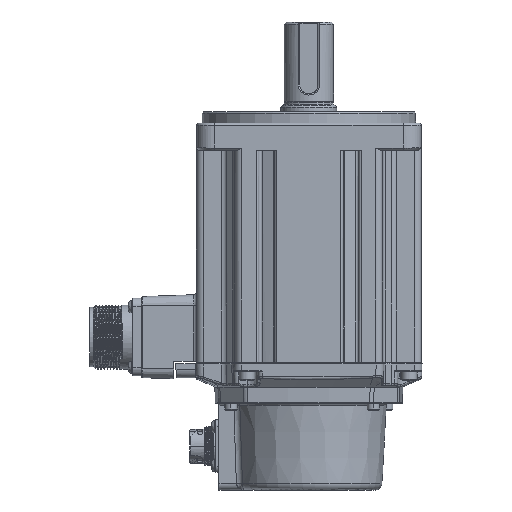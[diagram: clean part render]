
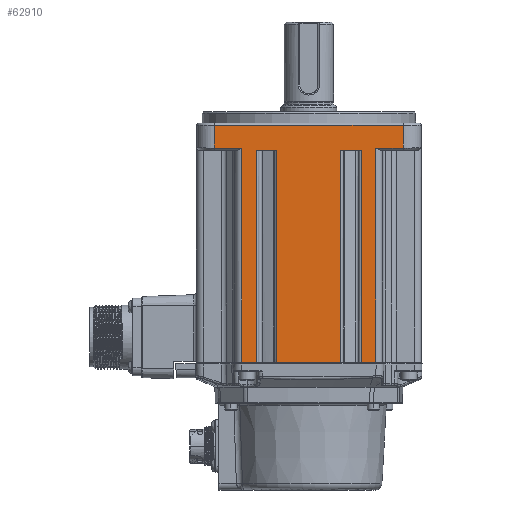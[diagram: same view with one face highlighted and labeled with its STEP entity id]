
A CAD part, left-side view. The second image highlights one B-rep face of the part: STEP entity #62910.
In plain terms, the highlighted planar face has unit normal (-1, 0, 0).
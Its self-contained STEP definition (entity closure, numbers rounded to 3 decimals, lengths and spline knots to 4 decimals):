
#11462=DIRECTION('',(0.,1.,0.));
#11463=VECTOR('',#11462,3.3071);
#11464=CARTESIAN_POINT('',(0.0464,0.3614,
-1.8151));
#11465=LINE('',#11464,#11463);
#12788=DIRECTION('',(0.,0.,1.));
#12789=VECTOR('',#12788,3.7165);
#12790=CARTESIAN_POINT('',(0.0464,2.9323,
-5.9647));
#12791=LINE('',#12790,#12789);
#12811=DIRECTION('',(0.,-1.,0.));
#12812=VECTOR('',#12811,0.3583);
#12813=CARTESIAN_POINT('',(0.0464,2.9323,
-2.2481));
#12814=LINE('',#12813,#12812);
#12825=DIRECTION('',(0.,-1.,-0.017));
#12826=VECTOR('',#12825,0.4823);
#12827=CARTESIAN_POINT('',(0.0464,3.6685,
-2.2143));
#12828=LINE('',#12827,#12826);
#12832=DIRECTION('',(0.,-1.,0.017));
#12833=VECTOR('',#12832,0.4823);
#12834=CARTESIAN_POINT('',(0.0464,0.8436,
-2.2227));
#12835=LINE('',#12834,#12833);
#12839=DIRECTION('',(0.,-1.,0.));
#12840=VECTOR('',#12839,0.254);
#12841=CARTESIAN_POINT('',(0.0464,1.0976,
-5.9647));
#12842=LINE('',#12841,#12840);
#12846=DIRECTION('',(0.,-1.,0.));
#12847=VECTOR('',#12846,1.1181);
#12848=CARTESIAN_POINT('',(0.0464,2.574,
-5.9647));
#12849=LINE('',#12848,#12847);
#12853=DIRECTION('',(0.,-1.,0.));
#12854=VECTOR('',#12853,0.254);
#12855=CARTESIAN_POINT('',(0.0464,3.1863,
-5.9647));
#12856=LINE('',#12855,#12854);
#12954=CARTESIAN_POINT('',(0.0464,3.6685,
-2.2143));
#12974=DIRECTION('',(0.,0.,-1.));
#12975=VECTOR('',#12974,0.3992);
#12976=CARTESIAN_POINT('',(0.0464,3.6685,
-1.8151));
#12977=LINE('',#12976,#12975);
#13049=DIRECTION('',(0.,0.,-1.));
#13050=VECTOR('',#13049,3.742);
#13051=CARTESIAN_POINT('',(0.0464,3.1863,
-2.2227));
#13052=LINE('',#13051,#13050);
#13150=DIRECTION('',(0.,0.,1.));
#13151=VECTOR('',#13150,0.3992);
#13152=CARTESIAN_POINT('',(0.0464,0.3614,
-2.2143));
#13153=LINE('',#13152,#13151);
#13212=DIRECTION('',(0.,0.,1.));
#13213=VECTOR('',#13212,3.742);
#13214=CARTESIAN_POINT('',(0.0464,0.8436,
-5.9647));
#13215=LINE('',#13214,#13213);
#13988=DIRECTION('',(0.,0.,-1.));
#13989=VECTOR('',#13988,3.7165);
#13990=CARTESIAN_POINT('',(0.0464,1.0976,
-2.2481));
#13991=LINE('',#13990,#13989);
#14034=DIRECTION('',(0.,-1.,0.));
#14035=VECTOR('',#14034,0.3583);
#14036=CARTESIAN_POINT('',(0.0464,1.4559,
-2.2481));
#14037=LINE('',#14036,#14035);
#14055=DIRECTION('',(0.,0.,1.));
#14056=VECTOR('',#14055,3.7165);
#14057=CARTESIAN_POINT('',(0.0464,1.4559,
-5.9647));
#14058=LINE('',#14057,#14056);
#14118=DIRECTION('',(0.,0.,-1.));
#14119=VECTOR('',#14118,3.7165);
#14120=CARTESIAN_POINT('',(0.0464,2.574,
-2.2481));
#14121=LINE('',#14120,#14119);
#54443=VERTEX_POINT('',#12954);
#54447=CARTESIAN_POINT('',(0.0464,3.6685,
-1.8151));
#54448=VERTEX_POINT('',#54447);
#54449=CARTESIAN_POINT('',(0.0464,3.1863,
-2.2227));
#54450=VERTEX_POINT('',#54449);
#54451=CARTESIAN_POINT('',(0.0464,0.3614,
-1.8151));
#54452=VERTEX_POINT('',#54451);
#54453=CARTESIAN_POINT('',(0.0464,0.3614,
-2.2143));
#54454=VERTEX_POINT('',#54453);
#54455=CARTESIAN_POINT('',(0.0464,0.8436,
-2.2227));
#54456=VERTEX_POINT('',#54455);
#54457=CARTESIAN_POINT('',(0.0464,0.8436,
-5.9647));
#54458=VERTEX_POINT('',#54457);
#54459=CARTESIAN_POINT('',(0.0464,1.0976,
-2.2481));
#54460=CARTESIAN_POINT('',(0.0464,1.0976,
-5.9647));
#54461=VERTEX_POINT('',#54459);
#54462=VERTEX_POINT('',#54460);
#54463=CARTESIAN_POINT('',(0.0464,1.4559,
-2.2481));
#54464=VERTEX_POINT('',#54463);
#54465=CARTESIAN_POINT('',(0.0464,1.4559,
-5.9647));
#54466=VERTEX_POINT('',#54465);
#54467=CARTESIAN_POINT('',(0.0464,2.574,
-2.2481));
#54468=CARTESIAN_POINT('',(0.0464,2.574,
-5.9647));
#54469=VERTEX_POINT('',#54467);
#54470=VERTEX_POINT('',#54468);
#54471=CARTESIAN_POINT('',(0.0464,2.9323,
-2.2481));
#54472=VERTEX_POINT('',#54471);
#54473=CARTESIAN_POINT('',(0.0464,2.9323,
-5.9647));
#54474=VERTEX_POINT('',#54473);
#54475=CARTESIAN_POINT('',(0.0464,3.1863,
-5.9647));
#54476=VERTEX_POINT('',#54475);
#62877=CARTESIAN_POINT('',(0.0464,2.015,
-3.8899));
#62878=DIRECTION('',(1.,0.,0.));
#62879=DIRECTION('',(0.,-1.,0.));
#62880=AXIS2_PLACEMENT_3D('',#62877,#62878,#62879);
#62881=PLANE('',#62880);
#62883=ORIENTED_EDGE('',*,*,#62882,.F.);
#62885=ORIENTED_EDGE('',*,*,#62884,.F.);
#62886=ORIENTED_EDGE('',*,*,#62115,.F.);
#62888=ORIENTED_EDGE('',*,*,#62887,.F.);
#62890=ORIENTED_EDGE('',*,*,#62889,.F.);
#62892=ORIENTED_EDGE('',*,*,#62891,.F.);
#62893=ORIENTED_EDGE('',*,*,#62503,.F.);
#62895=ORIENTED_EDGE('',*,*,#62894,.F.);
#62897=ORIENTED_EDGE('',*,*,#62896,.F.);
#62899=ORIENTED_EDGE('',*,*,#62898,.F.);
#62900=ORIENTED_EDGE('',*,*,#62487,.F.);
#62902=ORIENTED_EDGE('',*,*,#62901,.F.);
#62903=ORIENTED_EDGE('',*,*,#62860,.F.);
#62904=ORIENTED_EDGE('',*,*,#62834,.F.);
#62905=ORIENTED_EDGE('',*,*,#62620,.F.);
#62907=ORIENTED_EDGE('',*,*,#62906,.F.);
#62908=EDGE_LOOP('',(#62883,#62885,#62886,#62888,#62890,#62892,#62893,#62895,
#62897,#62899,#62900,#62902,#62903,#62904,#62905,#62907));
#62909=FACE_OUTER_BOUND('',#62908,.F.);
#62910=ADVANCED_FACE('',(#62909),#62881,.F.);
#62115=EDGE_CURVE('',#54452,#54448,#11465,.T.);
#62487=EDGE_CURVE('',#54470,#54466,#12849,.T.);
#62503=EDGE_CURVE('',#54462,#54458,#12842,.T.);
#62620=EDGE_CURVE('',#54476,#54474,#12856,.T.);
#62834=EDGE_CURVE('',#54474,#54472,#12791,.T.);
#62860=EDGE_CURVE('',#54472,#54469,#12814,.T.);
#62882=EDGE_CURVE('',#54443,#54450,#12828,.T.);
#62884=EDGE_CURVE('',#54448,#54443,#12977,.T.);
#62887=EDGE_CURVE('',#54454,#54452,#13153,.T.);
#62889=EDGE_CURVE('',#54456,#54454,#12835,.T.);
#62891=EDGE_CURVE('',#54458,#54456,#13215,.T.);
#62894=EDGE_CURVE('',#54461,#54462,#13991,.T.);
#62896=EDGE_CURVE('',#54464,#54461,#14037,.T.);
#62898=EDGE_CURVE('',#54466,#54464,#14058,.T.);
#62901=EDGE_CURVE('',#54469,#54470,#14121,.T.);
#62906=EDGE_CURVE('',#54450,#54476,#13052,.T.);
